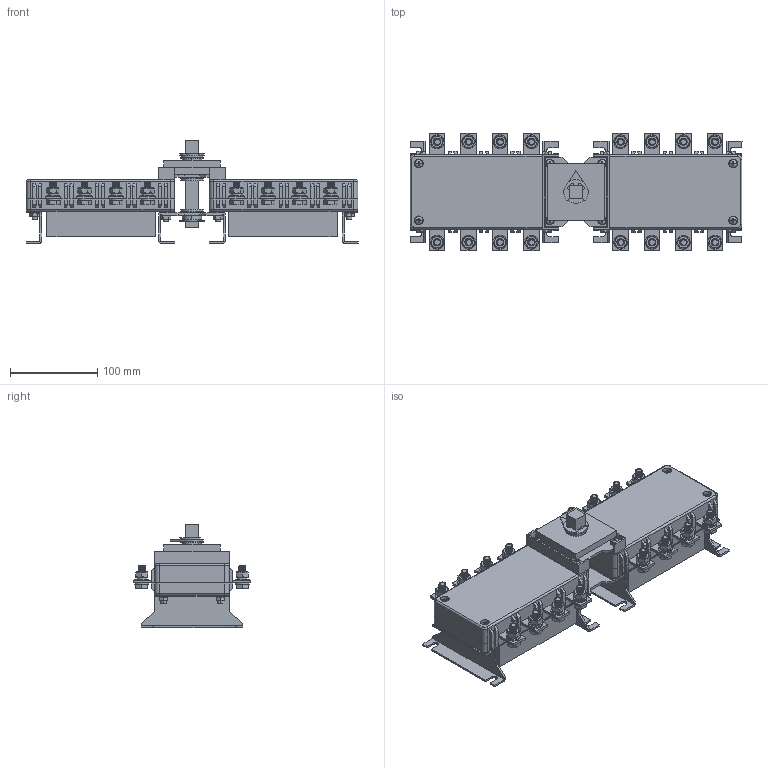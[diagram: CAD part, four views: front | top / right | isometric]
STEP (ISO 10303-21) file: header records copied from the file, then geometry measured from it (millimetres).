
FILE_DESCRIPTION((''),'2;1');
FILE_NAME('125-4S_ASM','2021-05-07T',('wangpeng'),(''),'PRO/ENGINEER BY PARAMETRIC TECHNOLOGY CORPORATION, 2009460','PRO/ENGINEER BY PARAMETRIC TECHNOLOGY CORPORATION, 2009460','');
FILE_SCHEMA(('AUTOMOTIVE_DESIGN { 1 0 10303 214 1 1 1 1 }'));
Length unit declared in the file: millimetre
Products named in the file (21): SB-125-4S; ZB-125-4S; DB-125-4S; XB-125-4S; ZCB-125-4S; YB-125-4S; CT-125-4S; PDQ8; TDQ8; 0LS8; 0LMM8; PDQ6; 0LSM6; LMM6; LDM6; ZSJNH40; FKSNH40; ZSJTNH40; ZZ-125-4S; DQM8; 125-4S_ASM
Assembly tree (146 placements, depth 2):
  125-4S_ASM
    SB-125-4S  x2
    ZB-125-4S  x2
    DB-125-4S  x4
    XB-125-4S  x2
    ZCB-125-4S  x2
    YB-125-4S  x2
    CT-125-4S  x8
    PDQ8  x32
    TDQ8  x16
    0LS8  x16
    0LMM8  x16
    PDQ6  x14
    0LSM6  x4
    LMM6  x8
    LDM6  x10
    ZSJNH40
    FKSNH40  x3
    ZSJTNH40
    ZZ-125-4S
    DQM8  x2
Bounding box: 380.01 x 135.03 x 118 mm (x, y, z)
Volume: 1911638 mm3; surface area: 473540.5 mm2
Topology: 146 solids, 146 shells, 2836 faces, 7565 edges, 5088 vertices
Faces by surface type: plane 1581, cylinder 703, cone 284, bspline 192, torus 48, sphere 28
Entity records: 27606 total; most frequent: CARTESIAN_POINT 8350, DIRECTION 3603, ORIENTED_EDGE 3526, EDGE_CURVE 1763, VECTOR 1297, LINE 1297, VERTEX_POINT 1171, AXIS2_PLACEMENT_3D 1153
